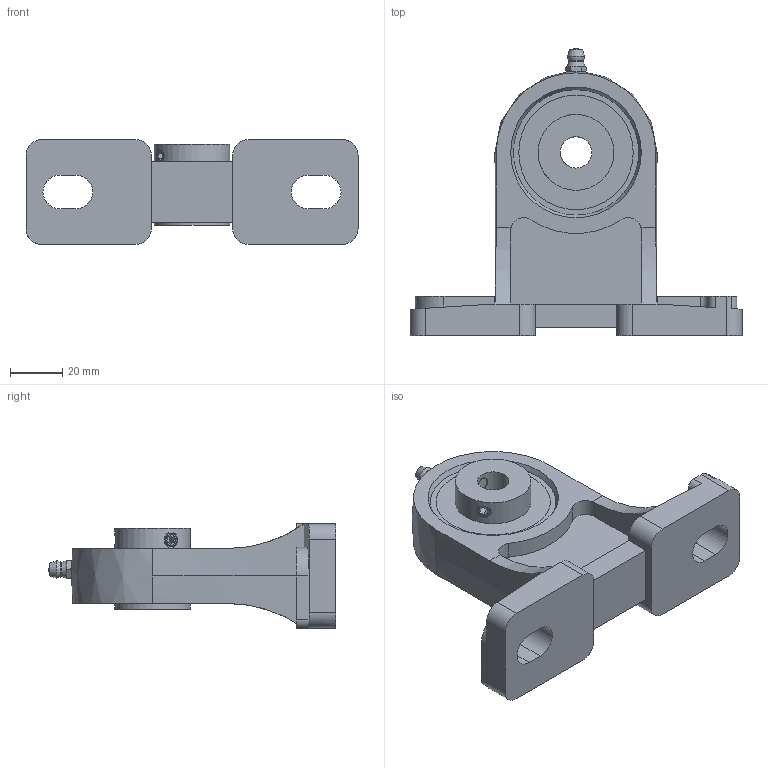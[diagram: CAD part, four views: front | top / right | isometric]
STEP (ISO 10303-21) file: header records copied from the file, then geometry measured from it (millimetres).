
FILE_DESCRIPTION((''),'2;1');
FILE_NAME('\\Ts-tgl068\j-cad-d-base\00.3DCADデータ作成フォルダ\01.ピロー形\UCPH200\UCPH201.stp','2014-04-18T08:29:43',('btec_1106_2'),(''),'Autodesk Inventor 2012','Autodesk Inventor 2012','');
FILE_SCHEMA(('AUTOMOTIVE_DESIGN { 1 0 10303 214 1 1 1 1 }'));
Length unit declared in the file: millimetre
Products named in the file (4): UCPH200; PH [番手=204 ul]; シリーズUC [番手=201 ul]; GU1
Assembly tree (3 placements, depth 2):
  UCPH200
    PH [番手=204 ul]
    シリーズUC [番手=201 ul]
    GU1
Bounding box: 127 x 109.79 x 40 mm (x, y, z)
Volume: 136216.9 mm3; surface area: 38526.1 mm2
Topology: 3 solids, 3 shells, 149 faces, 365 edges, 234 vertices
Faces by surface type: plane 78, cylinder 43, cone 17, bspline 5, sphere 4, torus 2
Full cylindrical faces by diameter (mm): 5.188 x2, 5.359 x1, 6 x2, 6.35 x1, 12 x1, 29 x2
Entity records: 4658 total; most frequent: CARTESIAN_POINT 1134, DIRECTION 700, ORIENTED_EDGE 678, EDGE_CURVE 339, AXIS2_PLACEMENT_3D 260, VERTEX_POINT 229, EDGE_LOOP 192, VECTOR 180
